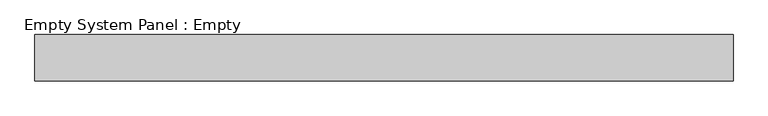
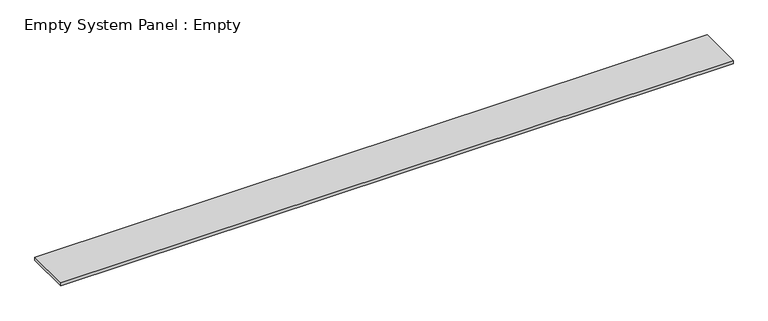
"""IFC4 building model written with IfcOpenShell, lengths in millimetres: plate geometry, Empty System Panel : Empty."""

from ifc_helpers import new_model, si_unit, origin, origin_with_axes, place, context, project, spatial, polyline, outline, extrude, source, transform, mapped, element, save


def empty_system_panel_empty_03f415d5(model_context):
    return source(origin(), model_context, "Body", "SweptSolid", [
        extrude(outline(polyline([(750.0, -50.0), (-750.0, -50.0), (-750.0, 50.0), (750.0, 50.0), (750.0, -50.0)])), origin_with_axes(), (0.0, 0.0, 1.0), 7.5),
    ])


if __name__ == "__main__":
    model = new_model("IFC4")
    model_context = context("Model", 3, world=origin())
    ifc_project = project(units=[si_unit("LENGTHUNIT", "METRE", prefix="MILLI")], contexts=[model_context])
    site = spatial("IfcSite", under=ifc_project)
    building = spatial("IfcBuilding", under=site)
    placement = place(None, origin())
    empty_system_panel_empty_shape = empty_system_panel_empty_03f415d5(model_context)
    element("IfcPlate", 1, ObjectType="Empty System Panel : Empty", at=placement, inside=building, context=model_context, shape_type="MappedRepresentation", body=[
        mapped(empty_system_panel_empty_shape, transform((0.0, 0.0, 0.0), x_axis=(1.0, 0.0, 0.0), y_axis=(0.0, 1.0, 0.0), z_axis=(0.0, 0.0, 1.0))),
    ])
    save(model, "model.ifc")
